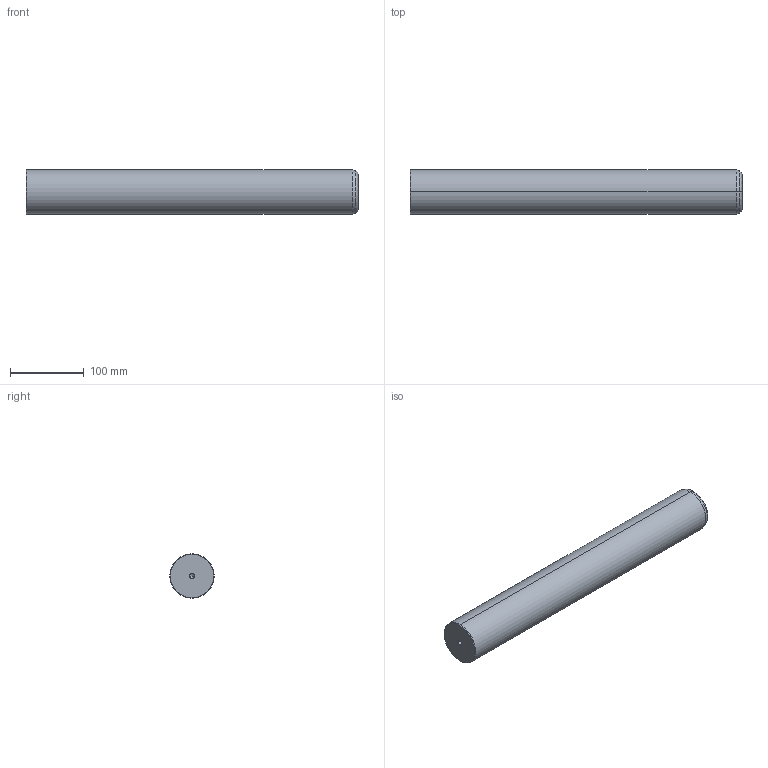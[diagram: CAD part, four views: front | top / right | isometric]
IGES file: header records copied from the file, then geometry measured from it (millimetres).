
Start section: START RECORD GO HERE.
Global section: file name: 720-60x450.igs; native system: DASSAULT SYSTEMES CATIA V5 R20 - www.3ds.com; preprocessor: CATIA Version 5 Release 20 ; author: Utente; organization: NB04-ASUS; date: 20201230.223139; units: millimetre
Bounding box: 450 x 60 x 60 mm (x, y, z)
Surface area: 90798.1 mm2 (no closed solid volume)
Topology: 0 solids, 0 shells, 22 faces, 120 edges, 116 vertices
Faces by surface type: revolution 20, plane 2
